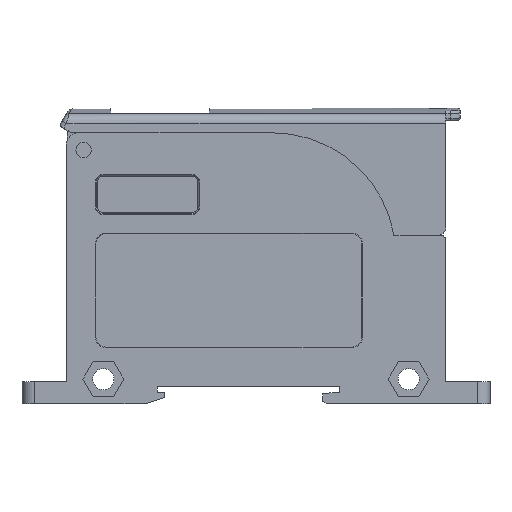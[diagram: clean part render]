
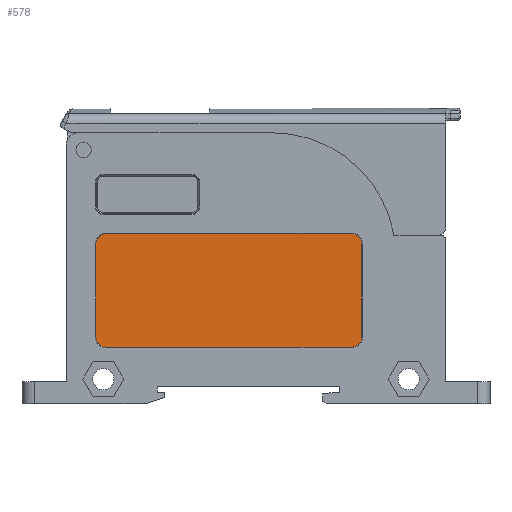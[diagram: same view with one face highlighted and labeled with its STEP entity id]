
A CAD part, left-side view. The second image highlights one B-rep face of the part: STEP entity #578.
In plain terms, the highlighted planar face has unit normal (-1, 0, 0).
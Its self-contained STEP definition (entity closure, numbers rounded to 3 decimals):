
#578=ADVANCED_FACE('',(#1002),#751,.T.);
#751=PLANE('',#5553);
#1002=FACE_OUTER_BOUND('',#1297,.T.);
#1297=EDGE_LOOP('',(#2816,#2817,#2818,#2819,#2820,#2821,#2822,#2823));
#1463=CIRCLE('',#5542,2.);
#1464=CIRCLE('',#5545,2.);
#1465=CIRCLE('',#5548,2.);
#1466=CIRCLE('',#5551,2.);
#2816=ORIENTED_EDGE('',*,*,#4093,.T.);
#2817=ORIENTED_EDGE('',*,*,#4091,.T.);
#2818=ORIENTED_EDGE('',*,*,#4089,.T.);
#2819=ORIENTED_EDGE('',*,*,#4087,.T.);
#2820=ORIENTED_EDGE('',*,*,#4085,.F.);
#2821=ORIENTED_EDGE('',*,*,#4098,.T.);
#2822=ORIENTED_EDGE('',*,*,#4097,.F.);
#2823=ORIENTED_EDGE('',*,*,#4095,.T.);
#3374=VERTEX_POINT('',#9203);
#3375=VERTEX_POINT('',#9205);
#3376=VERTEX_POINT('',#9209);
#3377=VERTEX_POINT('',#9213);
#3378=VERTEX_POINT('',#9217);
#3379=VERTEX_POINT('',#9221);
#3380=VERTEX_POINT('',#9225);
#3381=VERTEX_POINT('',#9229);
#4085=EDGE_CURVE('',#3375,#3374,#4600,.T.);
#4087=EDGE_CURVE('',#3376,#3374,#1463,.T.);
#4089=EDGE_CURVE('',#3377,#3376,#4603,.T.);
#4091=EDGE_CURVE('',#3378,#3377,#1464,.T.);
#4093=EDGE_CURVE('',#3379,#3378,#4606,.T.);
#4095=EDGE_CURVE('',#3380,#3379,#1465,.T.);
#4097=EDGE_CURVE('',#3380,#3381,#4609,.T.);
#4098=EDGE_CURVE('',#3375,#3381,#1466,.T.);
#4600=LINE('',#9206,#5117);
#4603=LINE('',#9214,#5120);
#4606=LINE('',#9222,#5123);
#4609=LINE('',#9230,#5126);
#5117=VECTOR('',#6873,1.);
#5120=VECTOR('',#6882,1.);
#5123=VECTOR('',#6891,1.);
#5126=VECTOR('',#6900,1.);
#5542=AXIS2_PLACEMENT_3D('',#9210,#6877,#6878);
#5545=AXIS2_PLACEMENT_3D('',#9218,#6886,#6887);
#5548=AXIS2_PLACEMENT_3D('',#9226,#6895,#6896);
#5551=AXIS2_PLACEMENT_3D('',#9232,#6903,#6904);
#5553=AXIS2_PLACEMENT_3D('',#9234,#6907,#6908);
#6873=DIRECTION('',(0.,1.,0.));
#6877=DIRECTION('',(-1.,0.,0.));
#6878=DIRECTION('',(0.,0.,1.));
#6882=DIRECTION('',(0.,0.,-1.));
#6886=DIRECTION('',(-1.,0.,0.));
#6887=DIRECTION('',(0.,0.,1.));
#6891=DIRECTION('',(0.,1.,0.));
#6895=DIRECTION('',(-1.,0.,0.));
#6896=DIRECTION('',(0.,0.,1.));
#6900=DIRECTION('',(0.,0.,-1.));
#6903=DIRECTION('',(-1.,0.,0.));
#6904=DIRECTION('',(0.,0.,1.));
#6907=DIRECTION('',(-1.,0.,0.));
#6908=DIRECTION('',(0.,0.,1.));
#9203=CARTESIAN_POINT('',(-268.955,-84.649,-3.35));
#9205=CARTESIAN_POINT('',(-268.955,-134.649,-3.35));
#9206=CARTESIAN_POINT('',(-268.955,-109.149,-3.35));
#9209=CARTESIAN_POINT('',(-268.955,-82.649,-1.35));
#9210=CARTESIAN_POINT('',(-268.955,-84.649,-1.35));
#9213=CARTESIAN_POINT('',(-268.955,-82.649,17.65));
#9214=CARTESIAN_POINT('',(-268.955,-82.649,-0.4));
#9217=CARTESIAN_POINT('',(-268.955,-84.649,19.65));
#9218=CARTESIAN_POINT('',(-268.955,-84.649,17.65));
#9221=CARTESIAN_POINT('',(-268.955,-134.649,19.65));
#9222=CARTESIAN_POINT('',(-268.955,-109.149,19.65));
#9225=CARTESIAN_POINT('',(-268.955,-136.649,17.65));
#9226=CARTESIAN_POINT('',(-268.955,-134.649,17.65));
#9229=CARTESIAN_POINT('',(-268.955,-136.649,-1.35));
#9230=CARTESIAN_POINT('',(-268.955,-136.649,-0.4));
#9232=CARTESIAN_POINT('',(-268.955,-134.649,-1.35));
#9234=CARTESIAN_POINT('',(-268.955,-109.149,-0.4));
